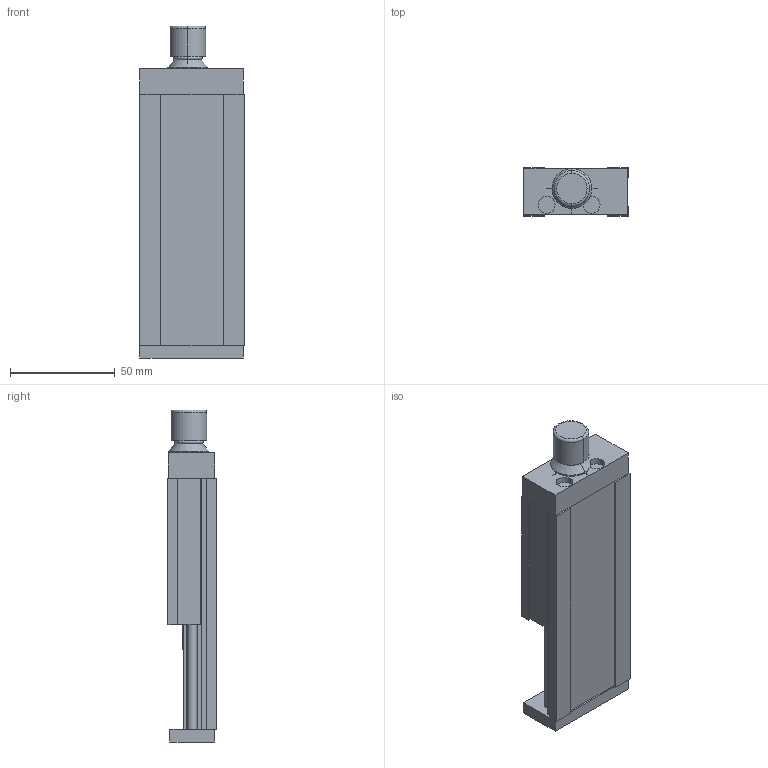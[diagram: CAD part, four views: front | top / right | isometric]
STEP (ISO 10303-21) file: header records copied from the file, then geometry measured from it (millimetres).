
FILE_DESCRIPTION (( 'STEP AP214' ), '1' );
FILE_NAME ('domiLINE 50 Hub 50.STEP', '2006-11-09T15:23:58', ( '' ), ( '' ), 'SwSTEP 2.0', 'SolidWorks 2006040', '' );
FILE_SCHEMA (( 'AUTOMOTIVE_DESIGN' ));
Length unit declared in the file: millimetre
Products named in the file (3): Aussenschlitten 50-+-D009143_ _Standard; domiLINE 50 Hub 50; dL 50 light-+-D018335_ _Hub 50
Assembly tree (2 placements, depth 2):
  domiLINE 50 Hub 50
    dL 50 light-+-D018335_ _Hub 50
    Aussenschlitten 50-+-D009143_ _Standard
Bounding box: 50 x 23 x 158.5 mm (x, y, z)
Volume: 108415.1 mm3; surface area: 45630.2 mm2
Topology: 2 solids, 2 shells, 143 faces, 368 edges, 240 vertices
Faces by surface type: plane 102, cylinder 35, torus 4, cone 2
Entity records: 5280 total; most frequent: CARTESIAN_POINT 756, DIRECTION 744, ORIENTED_EDGE 736, EDGE_CURVE 368, VECTOR 288, LINE 288, VERTEX_POINT 240, AXIS2_PLACEMENT_3D 228
